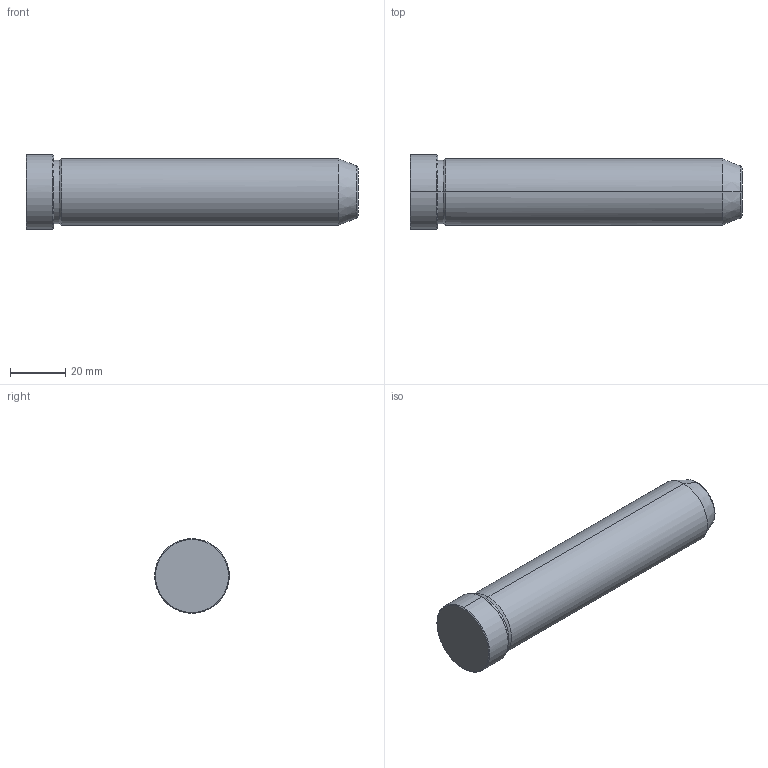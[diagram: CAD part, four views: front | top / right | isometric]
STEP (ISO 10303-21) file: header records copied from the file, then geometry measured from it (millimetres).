
FILE_DESCRIPTION(('CATIA V5 STEP Exchange'),'2;1');
FILE_NAME('C:\Users\Utente\Desktop\IO LAVORO\3D X SITO CF\X SITO\PLASTICA\549\549-24X120.stp','2021-12-17T14:05:17+00:00',('none'),('none'),'CATIA Version 5 Release 20 GA (IN-10)','CATIA V5 STEP AP203','none');
FILE_SCHEMA(('CONFIG_CONTROL_DESIGN'));
Length unit declared in the file: millimetre
Products named in the file (1): 549-24X120
Bounding box: 120 x 27 x 27 mm (x, y, z)
Volume: 54698.5 mm3; surface area: 10073 mm2
Topology: 1 solids, 1 shells, 19 faces, 56 edges, 40 vertices
Faces by surface type: cone 8, cylinder 6, plane 3, torus 2
Entity records: 736 total; most frequent: CARTESIAN_POINT 192, ORIENTED_EDGE 112, DIRECTION 86, EDGE_CURVE 56, AXIS2_PLACEMENT_3D 54, VERTEX_POINT 40, CIRCLE 34, EDGE_LOOP 20
